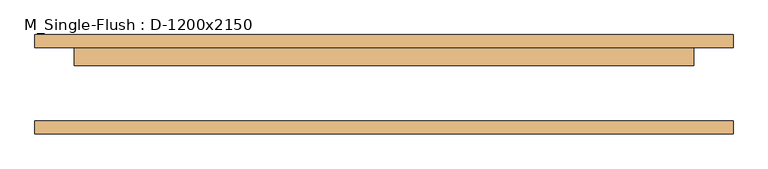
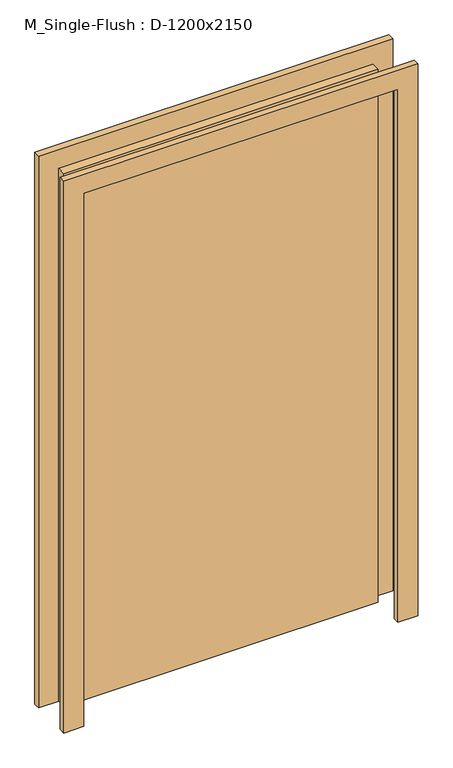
"""IFC4 building model written with IfcOpenShell, lengths in millimetres: door geometry, M_Single-Flush : D-1200x2150."""

from ifc_helpers import new_model, si_unit, frame, origin, origin_with_axes, place, context, project, spatial, polyline, outline, extrude, source, transform, mapped, element, save


def m_single_flush_d_1200x2150_ee7a6381(model_context):
    return source(origin(), model_context, "Body", "SweptSolid", [
        extrude(outline(polyline([(2226.0, -676.0), (0.0, -676.0), (0.0, -600.0), (2150.0, -600.0), (2150.0, 600.0), (0.0, 600.0), (0.0, 676.0), (2226.0, 676.0), (2226.0, -676.0)])), frame((0.0, 71.0, 0.0), z_axis=(0.0, 1.0, 0.0), x_axis=(0.0, 0.0, 1.0)), (0.0, 0.0, 1.0), 25.0),
        extrude(outline(polyline([(2226.0, 676.0), (2226.0, -676.0), (0.0, -676.0), (0.0, -600.0), (2150.0, -600.0), (2150.0, 600.0), (0.0, 600.0), (0.0, 676.0), (2226.0, 676.0)])), frame((0.0, -96.0, 0.0), z_axis=(0.0, 1.0, 0.0), x_axis=(0.0, 0.0, 1.0)), (0.0, 0.0, 1.0), 25.0),
        extrude(outline(polyline([(600.0, 36.0), (-600.0, 36.0), (-600.0, 71.0), (600.0, 71.0), (600.0, 36.0)])), origin_with_axes(), (0.0, 0.0, 1.0), 2150.0),
    ])


if __name__ == "__main__":
    model = new_model("IFC4")
    model_context = context("Model", 3, world=origin())
    ifc_project = project(units=[si_unit("LENGTHUNIT", "METRE", prefix="MILLI")], contexts=[model_context])
    site = spatial("IfcSite", under=ifc_project)
    building = spatial("IfcBuilding", under=site)
    placement = place(None, origin())
    m_single_flush_d_1200x2150_shape = m_single_flush_d_1200x2150_ee7a6381(model_context)
    element("IfcDoor", 1, ObjectType="M_Single-Flush : D-1200x2150", at=placement, inside=building, context=model_context, shape_type="MappedRepresentation", body=[
        mapped(m_single_flush_d_1200x2150_shape, transform((0.0, 0.0, 0.0), x_axis=(1.0, 0.0, 0.0), y_axis=(0.0, 1.0, 0.0), z_axis=(0.0, 0.0, 1.0))),
    ])
    save(model, "model.ifc")
